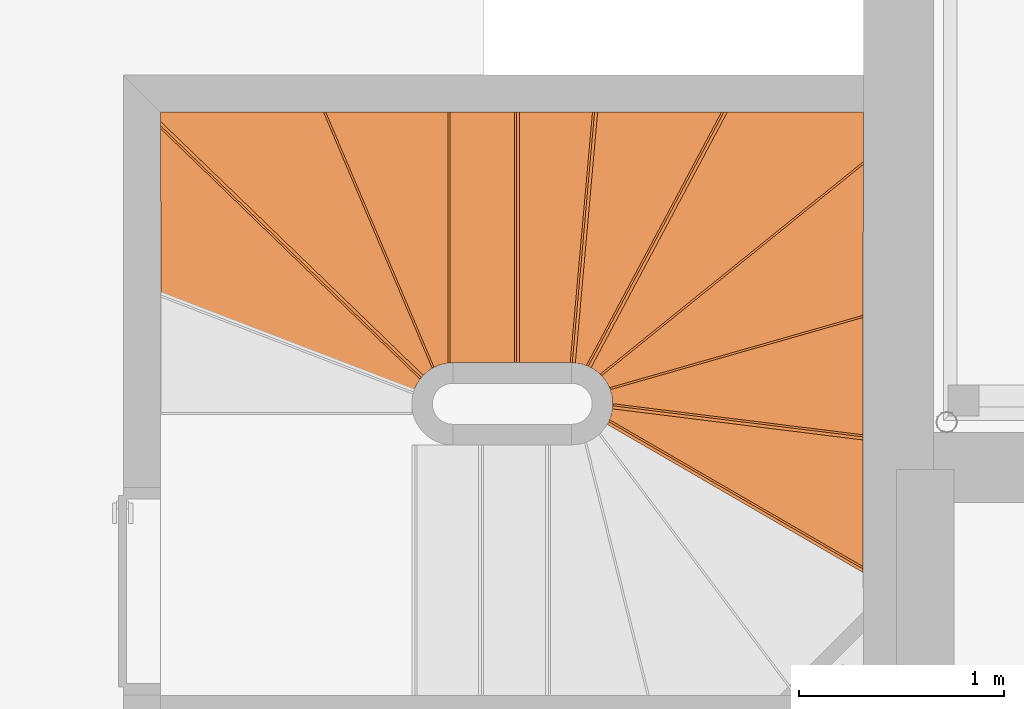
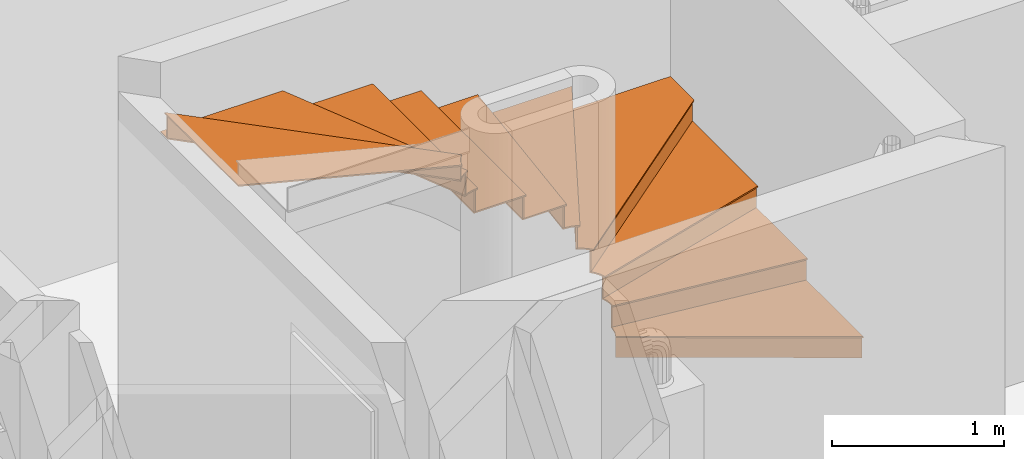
# One storey, part 168 of 171: 20 proxies, 1 element without a shape of its own.
"""IFC2X3 building model written with IfcOpenShell, lengths in millimetres."""

from ifc_helpers import new_model, entity, si_unit, converted_unit, derived_unit, money_unit, direction, frame, origin_with_axes, place, context, subcontext, project, spatial, faceted_brep, material, type_object, element, aggregate, save


model = new_model("IFC2X3")

# Units and contexts
model_context = context("Model", 3, precision=0.01, world=origin_with_axes(), true_north=direction((0.0, 1.0)))
body_context = subcontext(model_context, "Body", "Model", "MODEL_VIEW")
ifc_project = project(units=[si_unit("LENGTHUNIT", "METRE", prefix="MILLI"), si_unit("AREAUNIT", "SQUARE_METRE"), si_unit("VOLUMEUNIT", "CUBIC_METRE"), converted_unit("PLANEANGLEUNIT", "DEGREE", entity("IfcPlaneAngleMeasure", 0.0174532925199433), si_unit("PLANEANGLEUNIT", "RADIAN"), dimensions=[0, 0, 0, 0, 0, 0, 0]), money_unit("USD"), converted_unit("TIMEUNIT", "Year", entity("IfcTimeMeasure", 31557600.0), si_unit("TIMEUNIT", "SECOND"), dimensions=[0, 0, 1, 0, 0, 0, 0]), si_unit("MASSUNIT", "GRAM", prefix="KILO"), si_unit("THERMODYNAMICTEMPERATUREUNIT", "DEGREE_CELSIUS"), si_unit("LUMINOUSINTENSITYUNIT", "LUMEN"), si_unit("ENERGYUNIT", "JOULE", prefix="MEGA"), derived_unit("THERMALCONDUCTANCEUNIT", [(si_unit("POWERUNIT", "WATT"), 1), (si_unit("LENGTHUNIT", "METRE"), -1), (si_unit("THERMODYNAMICTEMPERATUREUNIT", "KELVIN"), -1)]), derived_unit("SPECIFICHEATCAPACITYUNIT", [(si_unit("ENERGYUNIT", "JOULE"), 1), (si_unit("MASSUNIT", "GRAM", prefix="KILO"), -1), (si_unit("THERMODYNAMICTEMPERATUREUNIT", "KELVIN"), -1)]), derived_unit("MASSDENSITYUNIT", [(si_unit("MASSUNIT", "GRAM", prefix="KILO"), 1), (si_unit("VOLUMEUNIT", "CUBIC_METRE"), -1)])], contexts=[model_context])

# Site, building, storey
site_placement = place(None, origin_with_axes())
site = spatial("IfcSite", under=ifc_project, at=site_placement, Name="Site", CompositionType="ELEMENT")
building_placement = place(site_placement, origin_with_axes())
building = spatial("IfcBuilding", under=site, at=building_placement, Name="Bâtiment", CompositionType="ELEMENT")
storey_placement = place(building_placement, frame((0.0, 0.0, 3000.0), z_axis=(0.0, 0.0, 1.0), x_axis=(1.0, 0.0, 0.0)))
storey = spatial("IfcBuildingStorey", under=building, at=storey_placement, Name="rdc", CompositionType="ELEMENT", Elevation=3000.0)

# Stair, proxies
stair_placement = place(storey_placement, frame((2227115.16403848, -636013.3434519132, 0.0), z_axis=(0.0, 0.0, 1.0), x_axis=(1.0, 0.0, 0.0)))
stair = element("IfcStair", 1, at=stair_placement, inside=storey, Name="ESC-020", ShapeType="NOTDEFINED")
ifc_material_1 = material(Name="Parpaing 2676271321")
building_element_proxy_type = type_object("IfcBuildingElementProxyType", Name="IfcBuildingElementProxy", PredefinedType="NOTDEFINED")
proxy_1_placement = place(stair_placement, frame((1582.145980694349, 100.1630841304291, 1122.35294117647), z_axis=(0.0, 0.0, 1.0), x_axis=(0.9923864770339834, -0.123162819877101, 0.0)))
proxy_1 = element("IfcBuildingElementProxy", 2, at=proxy_1_placement, type_object=building_element_proxy_type, material=ifc_material_1, Name="C-MARCHE-338", context=body_context, shape_type="Brep", body=[
    faceted_brep([(616.9148624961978, 14.99999999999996, 0.0), (615.6568410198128, 24.99999999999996, 0.0), (-611.3159759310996, 25.00000000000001, 0.0), (-610.5635345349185, 15.00000000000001, 0.0), (616.9148624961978, 14.99999999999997, -151.7647058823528), (615.6568410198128, 24.99999999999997, -151.7647058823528), (-611.3159759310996, 25.00000000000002, -151.7647058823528), (-610.5635345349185, 15.00000000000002, -151.7647058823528)], [[[0, 1, 2, 3]], [[0, 4, 5, 1]], [[1, 5, 6, 2]], [[3, 2, 6, 7]], [[4, 0, 3, 7]], [[5, 4, 7, 6]]]),
])
proxy_2_placement = place(stair_placement, frame((1479.285947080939, -205.939345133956, 960.588235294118), z_axis=(0.0, 0.0, 1.0), x_axis=(0.8653853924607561, -0.501106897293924, 0.0)))
proxy_2 = element("IfcBuildingElementProxy", 3, at=proxy_2_placement, type_object=building_element_proxy_type, material=ifc_material_1, Name="C-MARCHE-337", context=body_context, shape_type="Brep", body=[
    faceted_brep([(821.0010736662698, 15.00000000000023, 0.0), (815.1882107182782, 25.00000000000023, 0.0), (-611.315975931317, 25.00000000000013, 0.0), (-610.5635345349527, 15.00000000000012, 0.0), (821.0010736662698, 15.00000000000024, -151.764705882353), (815.1882107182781, 25.00000000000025, -151.764705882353), (-611.315975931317, 25.00000000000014, -151.764705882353), (-610.5635345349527, 15.00000000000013, -151.764705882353)], [[[0, 1, 2, 3]], [[0, 4, 5, 1]], [[1, 5, 6, 2]], [[3, 2, 6, 7]], [[4, 0, 3, 7]], [[5, 4, 7, 6]]]),
])
proxy_3_placement = place(stair_placement, frame((1557.233341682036, 422.1230880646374, 1284.117647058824), z_axis=(0.0, 0.0, 1.0), x_axis=(0.9616268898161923, 0.2743605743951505, 0.0)))
proxy_3 = element("IfcBuildingElementProxy", 4, at=proxy_3_placement, type_object=building_element_proxy_type, material=ifc_material_1, Name="C-MARCHE-339", context=body_context, shape_type="Brep", body=[
    faceted_brep([(669.3900729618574, 14.99999999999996, 0.0), (672.2592924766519, 24.99999999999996, 0.0), (-611.3159759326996, 25.00000000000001, 0.0), (-610.5635345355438, 15.00000000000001, 0.0), (669.3900729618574, 14.99999999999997, -151.764705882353), (672.2592924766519, 24.99999999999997, -151.764705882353), (-611.3159759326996, 25.00000000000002, -151.764705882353), (-610.5635345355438, 15.00000000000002, -151.764705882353)], [[[0, 1, 2, 3]], [[0, 4, 5, 1]], [[1, 5, 6, 2]], [[3, 2, 6, 7]], [[4, 0, 3, 7]], [[5, 4, 7, 6]]]),
])
proxy_4_placement = place(stair_placement, frame((1159.614157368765, 914.5022108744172, 1607.647058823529), z_axis=(0.0, 0.0, 1.0), x_axis=(0.4706872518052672, 0.8823001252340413, 0.0)))
proxy_4 = element("IfcBuildingElementProxy", 5, at=proxy_4_placement, type_object=building_element_proxy_type, material=ifc_material_1, Name="C-MARCHE-341", context=body_context, shape_type="Brep", body=[
    faceted_brep([(791.4159478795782, 14.9999999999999, 0.0), (786.0811756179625, 24.9999999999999, 0.0), (-611.3159759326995, 25.00000000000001, 0.0), (-610.5635345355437, 15.00000000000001, 0.0), (791.4159478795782, 14.99999999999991, -151.7647058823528), (786.0811756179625, 24.99999999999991, -151.7647058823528), (-611.3159759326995, 25.00000000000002, -151.7647058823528), (-610.5635345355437, 15.00000000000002, -151.7647058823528)], [[[0, 1, 2, 3]], [[0, 4, 5, 1]], [[1, 5, 6, 2]], [[3, 2, 6, 7]], [[4, 0, 3, 7]], [[5, 4, 7, 6]]]),
])
proxy_5_placement = place(stair_placement, frame((1408.508417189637, 708.7583624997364, 1445.882352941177), z_axis=(0.0, 0.0, 1.0), x_axis=(0.7779965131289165, 0.6282685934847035, 0.0)))
proxy_5 = element("IfcBuildingElementProxy", 6, at=proxy_5_placement, type_object=building_element_proxy_type, material=ifc_material_1, Name="C-MARCHE-340", context=body_context, shape_type="Brep", body=[
    faceted_brep([(1026.802065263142, 15.00000000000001, 0.0), (1034.902198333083, 25.00000000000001, 0.0), (-611.3159759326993, 25.00000000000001, 0.0), (-610.5635345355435, 15.00000000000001, 0.0), (1026.802065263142, 15.00000000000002, -151.764705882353), (1034.902198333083, 25.00000000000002, -151.764705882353), (-611.3159759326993, 25.00000000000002, -151.764705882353), (-610.5635345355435, 15.00000000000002, -151.764705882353)], [[[0, 1, 2, 3]], [[0, 4, 5, 1]], [[1, 5, 6, 2]], [[3, 2, 6, 7]], [[4, 0, 3, 7]], [[5, 4, 7, 6]]]),
])
proxy_6_placement = place(stair_placement, frame((850.1175319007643, 1006.64732761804, 1769.411764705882), z_axis=(0.0, 0.0, 1.0), x_axis=(0.08855236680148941, 0.9960715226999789, 0.0)))
proxy_6 = element("IfcBuildingElementProxy", 7, at=proxy_6_placement, type_object=building_element_proxy_type, material=ifc_material_1, Name="C-MARCHE-342", context=body_context, shape_type="Brep", body=[
    faceted_brep([(614.2665554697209, 15.00000000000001, 0.0), (613.3775413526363, 25.00000000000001, 0.0), (-611.3159759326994, 25.00000000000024, 0.0), (-610.5635345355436, 15.00000000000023, 0.0), (614.2665554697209, 15.00000000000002, -151.764705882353), (613.3775413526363, 25.00000000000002, -151.764705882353), (-611.3159759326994, 25.00000000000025, -151.764705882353), (-610.5635345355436, 15.00000000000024, -151.764705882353)], [[[0, 1, 2, 3]], [[0, 4, 5, 1]], [[1, 5, 6, 2]], [[3, 2, 6, 7]], [[4, 0, 3, 7]], [[5, 4, 7, 6]]]),
])
proxy_7_placement = place(stair_placement, frame((525.1110302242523, 1009.829109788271, 1931.176470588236), z_axis=(0.0, 0.0, 1.0), x_axis=(2.014278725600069e-07, 0.9999999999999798, 0.0)))
proxy_7 = element("IfcBuildingElementProxy", 8, at=proxy_7_placement, type_object=building_element_proxy_type, material=ifc_material_1, Name="C-MARCHE-343", context=body_context, shape_type="Brep", body=[
    faceted_brep([(610.0000000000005, 15.0, 0.0), (610.0000000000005, 24.99999999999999, 0.0), (-610.0, 24.99999999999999, 0.0), (-610.0, 15.0, 0.0), (610.0000000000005, 15.00000000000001, -151.7647058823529), (610.0000000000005, 25.0, -151.7647058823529), (-610.0, 25.0, -151.7647058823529), (-610.0, 15.00000000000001, -151.7647058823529)], [[[0, 1, 2, 3]], [[0, 4, 5, 1]], [[1, 5, 6, 2]], [[3, 2, 6, 7]], [[4, 0, 3, 7]], [[5, 4, 7, 6]]]),
])
proxy_8_placement = place(stair_placement, frame((200.0104641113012, 1009.829175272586, 2092.941176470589), z_axis=(0.0, 0.0, 1.0), x_axis=(2.01427872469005e-07, 0.9999999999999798, 0.0)))
proxy_8 = element("IfcBuildingElementProxy", 9, at=proxy_8_placement, type_object=building_element_proxy_type, material=ifc_material_1, Name="C-MARCHE-344", context=body_context, shape_type="Brep", body=[
    faceted_brep([(609.9999927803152, 14.99999999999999, 0.0), (609.9999879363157, 24.99999999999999, 0.0), (-611.3039816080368, 24.99999999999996, 0.0), (-610.556363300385, 14.99999999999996, 0.0), (609.9999927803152, 14.99999999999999, -151.764705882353), (609.9999879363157, 24.99999999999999, -151.764705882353), (-611.3039816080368, 24.99999999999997, -151.764705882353), (-610.556363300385, 14.99999999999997, -151.764705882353)], [[[0, 1, 2, 3]], [[0, 4, 5, 1]], [[1, 5, 6, 2]], [[3, 2, 6, 7]], [[4, 0, 3, 7]], [[5, 4, 7, 6]]]),
])
proxy_9_placement = place(stair_placement, frame((-116.4375896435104, 945.4901224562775, 2254.705882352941), z_axis=(0.0, 0.0, 1.0), x_axis=(-0.3905995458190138, 0.9205606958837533, 0.0)))
proxy_9 = element("IfcBuildingElementProxy", 10, at=proxy_9_placement, type_object=building_element_proxy_type, material=ifc_material_1, Name="C-MARCHE-345", context=body_context, shape_type="Brep", body=[
    faceted_brep([(738.895190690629, 15.00000000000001, 0.0), (743.1382486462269, 25.00000000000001, 0.0), (-611.3159759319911, 25.00000000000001, 0.0), (-610.5635345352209, 15.00000000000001, 0.0), (738.895190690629, 15.00000000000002, -151.764705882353), (743.1382486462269, 25.00000000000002, -151.764705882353), (-611.3159759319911, 25.00000000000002, -151.764705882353), (-610.5635345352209, 15.00000000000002, -151.764705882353)], [[[0, 1, 2, 3]], [[0, 4, 5, 1]], [[1, 5, 6, 2]], [[3, 2, 6, 7]], [[4, 0, 3, 7]], [[5, 4, 7, 6]]]),
])
proxy_10_placement = place(stair_placement, frame((-382.594805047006, 762.6261828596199, 2416.470588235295), z_axis=(0.0, 0.0, 1.0), x_axis=(-0.719223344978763, 0.6947789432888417, 0.0)))
proxy_10 = element("IfcBuildingElementProxy", 11, at=proxy_10_placement, type_object=building_element_proxy_type, material=ifc_material_1, Name="C-MARCHE-346", context=body_context, shape_type="Brep", body=[
    faceted_brep([(1153.599827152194, 14.99999999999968, 0.0), (1143.900879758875, 24.99999999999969, 0.0), (-611.3159759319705, 25.00000000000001, 0.0), (-610.5635345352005, 15.00000000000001, 0.0), (1153.599827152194, 14.99999999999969, -151.7647058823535), (1143.900879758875, 24.99999999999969, -151.7647058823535), (-611.3159759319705, 25.00000000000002, -151.7647058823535), (-610.5635345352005, 15.00000000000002, -151.7647058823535)], [[[0, 1, 2, 3]], [[0, 4, 5, 1]], [[1, 5, 6, 2]], [[3, 2, 6, 7]], [[4, 0, 3, 7]], [[5, 4, 7, 6]]]),
])
ifc_material_2 = material(Name="Lame d'air 275581351")
proxy_11_placement = place(stair_placement, frame((1582.145980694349, 100.1630841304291, 1132.352941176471), z_axis=(0.0, 0.0, 1.0), x_axis=(0.9923864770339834, -0.123162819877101, 0.0)))
proxy_11 = element("IfcBuildingElementProxy", 12, at=proxy_11_placement, type_object=building_element_proxy_type, material=ifc_material_2, Name="MARCHE-338", context=body_context, shape_type="Brep", body=[
    faceted_brep([(-610.0000000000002, 0.0, -10.0), (618.801894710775, 0.0, -10.0), (618.801894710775, 0.0, 0.0), (-610.0000000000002, 0.0, 0.0), (-610.4531617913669, 13.45295387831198, -10.0), (-618.7562293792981, 58.51773040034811, -10.0), (-637.1026110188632, 100.5080304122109, -10.0), (544.6802479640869, 602.110660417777, -10.0), (606.7813705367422, 95.5510251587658, -10.0), (606.7813705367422, 95.5510251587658, 0.0), (544.6802479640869, 602.110660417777, 0.0), (-637.1026110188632, 100.5080304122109, 0.0), (-618.7562293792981, 58.51773040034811, 0.0), (-610.4531617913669, 13.45295387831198, 0.0)], [[[0, 1, 2, 3]], [[0, 4, 5, 6, 7, 8, 1]], [[1, 8, 9, 2]], [[3, 2, 9, 10, 11, 12, 13]], [[4, 0, 3, 13]], [[5, 4, 13, 12]], [[6, 5, 12, 11]], [[7, 6, 11, 10]], [[8, 7, 10, 9]]]),
])
proxy_12_placement = place(stair_placement, frame((1557.233341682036, 422.1230880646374, 1294.117647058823), z_axis=(0.0, 0.0, 1.0), x_axis=(0.9616268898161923, 0.2743605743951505, 0.0)))
proxy_12 = element("IfcBuildingElementProxy", 13, at=proxy_12_placement, type_object=building_element_proxy_type, material=ifc_material_2, Name="MARCHE-339", context=body_context, shape_type="Brep", body=[
    faceted_brep([(-609.9999999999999, 0.0, -10.0), (665.0862436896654, 0.0, -10.0), (665.0862436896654, 0.0, 0.0), (-609.9999999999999, 0.0, 0.0), (-613.07410592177, 34.92373449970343, -10.0), (-622.2018820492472, 68.7734178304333, -10.0), (-637.1026110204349, 100.5080303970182, -10.0), (878.498300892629, 743.7982911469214, -10.0), (878.498300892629, 743.7982911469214, 0.0), (-637.1026110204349, 100.5080303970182, 0.0), (-622.2018820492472, 68.7734178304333, 0.0), (-613.07410592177, 34.92373449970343, 0.0)], [[[0, 1, 2, 3]], [[0, 4, 5, 6, 7, 1]], [[1, 7, 8, 2]], [[3, 2, 8, 9, 10, 11]], [[4, 0, 3, 11]], [[5, 4, 11, 10]], [[6, 5, 10, 9]], [[7, 6, 9, 8]]]),
])
proxy_13_placement = place(stair_placement, frame((1479.285947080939, -205.939345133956, 970.5882352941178), z_axis=(0.0, 0.0, 1.0), x_axis=(0.8653853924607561, -0.501106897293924, 0.0)))
proxy_13 = element("IfcBuildingElementProxy", 14, at=proxy_13_placement, type_object=building_element_proxy_type, material=ifc_material_2, Name="MARCHE-337", context=body_context, shape_type="Brep", body=[
    faceted_brep([(-610.0, 0.0, -10.0), (829.7203680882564, 0.0, -10.0), (829.7203680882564, 0.0, 0.0), (-610.0, 0.0, 0.0), (-615.4656237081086, 46.42674873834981, -10.0), (-631.5636368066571, 90.31490221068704, -10.0), (-637.1026110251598, 100.5080304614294, -10.0), (492.5768707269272, 579.9956069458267, -10.0), (492.5768707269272, 579.9956069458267, 0.0), (-637.1026110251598, 100.5080304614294, 0.0), (-631.5636368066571, 90.31490221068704, 0.0), (-615.4656237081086, 46.42674873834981, 0.0)], [[[0, 1, 2, 3]], [[0, 4, 5, 6, 7, 1]], [[1, 7, 8, 2]], [[3, 2, 8, 9, 10, 11]], [[4, 0, 3, 11]], [[5, 4, 11, 10]], [[6, 5, 10, 9]], [[7, 6, 9, 8]]]),
])
proxy_14_placement = place(stair_placement, frame((1408.508417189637, 708.7583624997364, 1455.882352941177), z_axis=(0.0, 0.0, 1.0), x_axis=(0.7779965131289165, 0.6282685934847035, 0.0)))
proxy_14 = element("IfcBuildingElementProxy", 15, at=proxy_14_placement, type_object=building_element_proxy_type, material=ifc_material_2, Name="MARCHE-340", context=body_context, shape_type="Brep", body=[
    faceted_brep([(-609.9999999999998, 0.0, -10.0), (1014.651865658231, 0.0, -10.0), (1014.651865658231, 0.0, 0.0), (-609.9999999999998, 0.0, 0.0), (-613.0741059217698, 34.92373449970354, -10.0), (-622.2018820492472, 68.77341783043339, -10.0), (-637.102611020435, 100.5080303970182, -10.0), (649.4549417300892, 646.5818266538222, -10.0), (1186.861356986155, 212.6008175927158, -10.0), (1186.861356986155, 212.6008175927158, 0.0), (649.4549417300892, 646.5818266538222, 0.0), (-637.102611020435, 100.5080303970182, 0.0), (-622.2018820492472, 68.77341783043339, 0.0), (-613.0741059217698, 34.92373449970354, 0.0)], [[[0, 1, 2, 3]], [[0, 4, 5, 6, 7, 8, 1]], [[1, 8, 9, 2]], [[3, 2, 9, 10, 11, 12, 13]], [[4, 0, 3, 13]], [[5, 4, 13, 12]], [[6, 5, 12, 11]], [[7, 6, 11, 10]], [[8, 7, 10, 9]]]),
])
proxy_15_placement = place(stair_placement, frame((1159.614157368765, 914.5022108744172, 1617.647058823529), z_axis=(0.0, 0.0, 1.0), x_axis=(0.4706872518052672, 0.8823001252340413, 0.0)))
proxy_15 = element("IfcBuildingElementProxy", 16, at=proxy_15_placement, type_object=building_element_proxy_type, material=ifc_material_2, Name="MARCHE-341", context=body_context, shape_type="Brep", body=[
    faceted_brep([(-609.9999999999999, 0.0, -10.0), (799.4181062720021, 0.0, -10.0), (799.4181062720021, 0.0, 0.0), (-609.9999999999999, 0.0, 0.0), (-615.971666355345, 48.49727697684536, -10.0), (-633.5299051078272, 94.0972213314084, -10.0), (-636.9781155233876, 100.5608719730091, -10.0), (490.4787422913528, 579.1050654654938, -10.0), (490.4787422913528, 579.1050654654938, 0.0), (-636.9781155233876, 100.5608719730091, 0.0), (-633.5299051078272, 94.0972213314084, 0.0), (-615.971666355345, 48.49727697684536, 0.0)], [[[0, 1, 2, 3]], [[0, 4, 5, 6, 7, 1]], [[1, 7, 8, 2]], [[3, 2, 8, 9, 10, 11]], [[4, 0, 3, 11]], [[5, 4, 11, 10]], [[6, 5, 10, 9]], [[7, 6, 9, 8]]]),
])
proxy_16_placement = place(stair_placement, frame((850.1175319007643, 1006.64732761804, 1779.411764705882), z_axis=(0.0, 0.0, 1.0), x_axis=(0.08855236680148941, 0.9960715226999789, 0.0)))
proxy_16 = element("IfcBuildingElementProxy", 17, at=proxy_16_placement, type_object=building_element_proxy_type, material=ifc_material_2, Name="MARCHE-342", context=body_context, shape_type="Brep", body=[
    faceted_brep([(-609.9999999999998, 0.0, -10.0), (615.6000766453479, 0.0, -10.0), (615.6000766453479, 0.0, 0.0), (-609.9999999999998, 0.0, 0.0), (-610.7853563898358, 17.70287107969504, -10.0), (-635.42825621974, 294.8964425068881, -10.0), (579.7790232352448, 402.9300852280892, -10.0), (604.4219230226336, 125.7365142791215, -10.0), (604.4219230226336, 125.7365142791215, 0.0), (579.7790232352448, 402.9300852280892, 0.0), (-635.42825621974, 294.8964425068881, 0.0), (-610.7853563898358, 17.70287107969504, 0.0)], [[[0, 1, 2, 3]], [[0, 4, 5, 6, 7, 1]], [[1, 7, 8, 2]], [[3, 2, 8, 9, 10, 11]], [[4, 0, 3, 11]], [[5, 4, 11, 10]], [[6, 5, 10, 9]], [[7, 6, 9, 8]]]),
])
proxy_17_placement = place(stair_placement, frame((525.1110302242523, 1009.829109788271, 1941.176470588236), z_axis=(0.0, 0.0, 1.0), x_axis=(2.014278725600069e-07, 0.9999999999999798, 0.0)))
proxy_17 = element("IfcBuildingElementProxy", 18, at=proxy_17_placement, type_object=building_element_proxy_type, material=ifc_material_2, Name="MARCHE-343", context=body_context, shape_type="Brep", body=[
    faceted_brep([(-609.9999999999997, 0.0, -10.0), (609.9999999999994, 0.0, -10.0), (609.9999999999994, 0.0, 0.0), (-609.9999999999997, 0.0, 0.0), (-609.9999999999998, 325.196259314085, -10.0), (-611.5572991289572, 350.1005661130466, -10.0), (609.9999879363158, 350.1005661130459, -10.0), (609.9999999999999, 325.1961787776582, -10.0), (609.9999999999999, 325.1961787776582, 0.0), (609.9999879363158, 350.1005661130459, 0.0), (-611.5572991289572, 350.1005661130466, 0.0), (-609.9999999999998, 325.196259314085, 0.0)], [[[0, 1, 2, 3]], [[0, 4, 5, 6, 7, 1]], [[1, 7, 8, 2]], [[3, 2, 8, 9, 10, 11]], [[4, 0, 3, 11]], [[5, 4, 11, 10]], [[6, 5, 10, 9]], [[7, 6, 9, 8]]]),
])
proxy_18_placement = place(stair_placement, frame((200.0104641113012, 1009.829175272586, 2102.941176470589), z_axis=(0.0, 0.0, 1.0), x_axis=(2.01427872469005e-07, 0.9999999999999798, 0.0)))
proxy_18 = element("IfcBuildingElementProxy", 19, at=proxy_18_placement, type_object=building_element_proxy_type, material=ifc_material_2, Name="MARCHE-344", context=body_context, shape_type="Brep", body=[
    faceted_brep([(-609.9999999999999, 0.0, -10.0), (609.9999999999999, 0.0, -10.0), (609.9999999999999, 0.0, 0.0), (-609.9999999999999, 0.0, 0.0), (-609.9999999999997, 0.09569320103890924, -10.0), (-613.0727411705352, 35.01165415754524, -10.0), (-622.1964792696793, 68.85428217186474, -10.0), (-637.0907469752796, 100.5832414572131, -10.0), (609.9996950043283, 629.7316564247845, -10.0), (609.9999999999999, 0.09561266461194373, -10.0), (609.9999999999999, 0.09561266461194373, 0.0), (609.9996950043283, 629.7316564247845, 0.0), (-637.0907469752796, 100.5832414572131, 0.0), (-622.1964792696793, 68.85428217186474, 0.0), (-613.0727411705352, 35.01165415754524, 0.0), (-609.9999999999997, 0.09569320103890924, 0.0)], [[[0, 1, 2, 3]], [[0, 4, 5, 6, 7, 8, 9, 1]], [[1, 9, 10, 2]], [[3, 2, 10, 11, 12, 13, 14, 15]], [[4, 0, 3, 15]], [[5, 4, 15, 14]], [[6, 5, 14, 13]], [[7, 6, 13, 12]], [[8, 7, 12, 11]], [[9, 8, 11, 10]]]),
])
proxy_19_placement = place(stair_placement, frame((-382.594805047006, 762.6261828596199, 2426.470588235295), z_axis=(0.0, 0.0, 1.0), x_axis=(-0.719223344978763, 0.6947789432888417, 0.0)))
proxy_19 = element("IfcBuildingElementProxy", 20, at=proxy_19_placement, type_object=building_element_proxy_type, material=ifc_material_2, Name="MARCHE-346", context=body_context, shape_type="Brep", body=[
    faceted_brep([(-609.9999999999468, 0.0, -10.0), (1168.148248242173, 0.0, -10.0), (1168.148248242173, 0.0, 0.0), (-609.9999999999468, 0.0, 0.0), (-613.0741059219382, 34.92373450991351, -10.0), (-622.2018820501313, 68.77341785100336, -10.0), (-637.102611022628, 100.5080304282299, -10.0), (572.6500316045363, 613.9823142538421, -10.0), (572.6500316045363, 613.9823142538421, 0.0), (-637.102611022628, 100.5080304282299, 0.0), (-622.2018820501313, 68.77341785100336, 0.0), (-613.0741059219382, 34.92373450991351, 0.0)], [[[0, 1, 2, 3]], [[0, 4, 5, 6, 7, 1]], [[1, 7, 8, 2]], [[3, 2, 8, 9, 10, 11]], [[4, 0, 3, 11]], [[5, 4, 11, 10]], [[6, 5, 10, 9]], [[7, 6, 9, 8]]]),
])
proxy_20_placement = place(stair_placement, frame((-116.4375896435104, 945.4901224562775, 2264.705882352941), z_axis=(0.0, 0.0, 1.0), x_axis=(-0.3905995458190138, 0.9205606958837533, 0.0)))
proxy_20 = element("IfcBuildingElementProxy", 21, at=proxy_20_placement, type_object=building_element_proxy_type, material=ifc_material_2, Name="MARCHE-345", context=body_context, shape_type="Brep", body=[
    faceted_brep([(-609.9999999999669, 0.0, -10.0), (732.5306037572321, 0.0, -10.0), (732.5306037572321, 0.0, 0.0), (-609.9999999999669, 0.0, 0.0), (-613.0741059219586, 34.92373450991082, -10.0), (-622.201882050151, 68.77341785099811, -10.0), (-637.1026110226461, 100.5080304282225, -10.0), (978.8331675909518, 786.3849918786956, -10.0), (1052.932155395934, 755.1194327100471, -10.0), (1052.932155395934, 755.1194327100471, 0.0), (978.8331675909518, 786.3849918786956, 0.0), (-637.1026110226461, 100.5080304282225, 0.0), (-622.201882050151, 68.77341785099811, 0.0), (-613.0741059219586, 34.92373450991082, 0.0)], [[[0, 1, 2, 3]], [[0, 4, 5, 6, 7, 8, 1]], [[1, 8, 9, 2]], [[3, 2, 9, 10, 11, 12, 13]], [[4, 0, 3, 13]], [[5, 4, 13, 12]], [[6, 5, 12, 11]], [[7, 6, 11, 10]], [[8, 7, 10, 9]]]),
])
aggregate(stair, [proxy_1, proxy_2, proxy_3, proxy_4, proxy_5, proxy_6, proxy_7, proxy_8, proxy_9, proxy_10, proxy_11, proxy_12, proxy_13, proxy_14, proxy_15, proxy_16, proxy_17, proxy_18, proxy_19, proxy_20])

save(model, "model.ifc")
